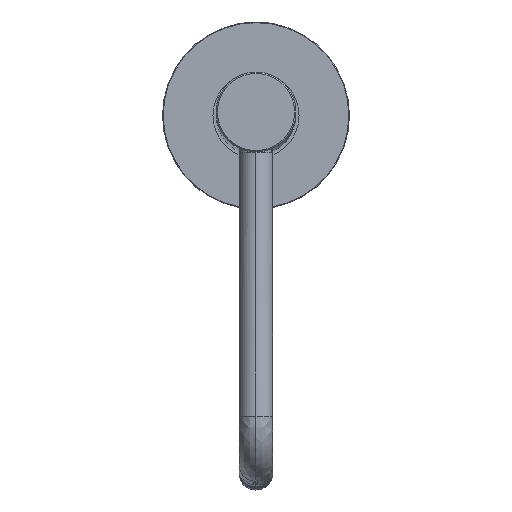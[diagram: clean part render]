
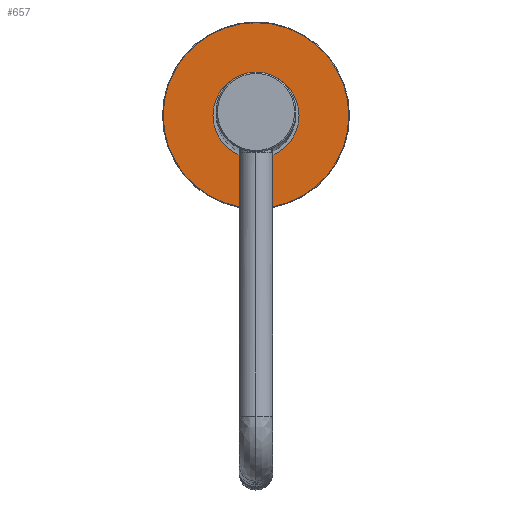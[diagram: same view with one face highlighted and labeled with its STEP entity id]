
A CAD part, top view. The second image highlights one B-rep face of the part: STEP entity #657.
In plain terms, the highlighted planar face has unit normal (0, 0, 1).
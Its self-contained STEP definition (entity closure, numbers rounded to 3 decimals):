
#158=CARTESIAN_POINT('',(49.65,-0.022,13.65));
#159=VERTEX_POINT('',#158);
#160=CARTESIAN_POINT('',(-49.65,0.022,13.65));
#161=VERTEX_POINT('',#160);
#162=CARTESIAN_POINT('',(0.,0.0,13.65));
#163=DIRECTION('',(0.,0.,1.));
#164=DIRECTION('',(1.,0.,0.));
#165=AXIS2_PLACEMENT_3D('',#162,#163,#164);
#166=CIRCLE('',#165,49.65);
#167=EDGE_CURVE('',#159,#161,#166,.T.);
#528=CARTESIAN_POINT('',(0.,0.0,13.65));
#529=DIRECTION('',(0.,0.,1.));
#530=DIRECTION('',(1.,0.,0.));
#531=AXIS2_PLACEMENT_3D('',#528,#529,#530);
#532=CIRCLE('',#531,49.65);
#533=EDGE_CURVE('',#161,#159,#532,.T.);
#628=CARTESIAN_POINT('',(-71.573,-71.511,13.65));
#629=DIRECTION('',(0.0,0.0,1.0));
#630=DIRECTION('',(1.,0.,0.0));
#631=AXIS2_PLACEMENT_3D('',#628,#629,#630);
#632=PLANE('',#631);
#633=ORIENTED_EDGE('',*,*,#533,.T.);
#634=ORIENTED_EDGE('',*,*,#167,.T.);
#635=EDGE_LOOP('',(#633,#634));
#636=FACE_OUTER_BOUND('',#635,.T.);
#637=CARTESIAN_POINT('',(-23.,0.01,13.65));
#638=VERTEX_POINT('',#637);
#639=CARTESIAN_POINT('',(23.,-0.01,13.65));
#640=VERTEX_POINT('',#639);
#641=CARTESIAN_POINT('',(0.,0.,13.65));
#642=DIRECTION('',(0.,0.,1.));
#643=DIRECTION('',(1.,0.,0.));
#644=AXIS2_PLACEMENT_3D('',#641,#642,#643);
#645=CIRCLE('',#644,23.0);
#646=EDGE_CURVE('',#638,#640,#645,.T.);
#647=ORIENTED_EDGE('',*,*,#646,.F.);
#648=CARTESIAN_POINT('',(0.,0.,13.65));
#649=DIRECTION('',(0.,0.,1.));
#650=DIRECTION('',(1.,0.,0.));
#651=AXIS2_PLACEMENT_3D('',#648,#649,#650);
#652=CIRCLE('',#651,23.0);
#653=EDGE_CURVE('',#640,#638,#652,.T.);
#654=ORIENTED_EDGE('',*,*,#653,.F.);
#655=EDGE_LOOP('',(#647,#654));
#656=FACE_BOUND('',#655,.T.);
#657=ADVANCED_FACE('',(#636,#656),#632,.T.);
